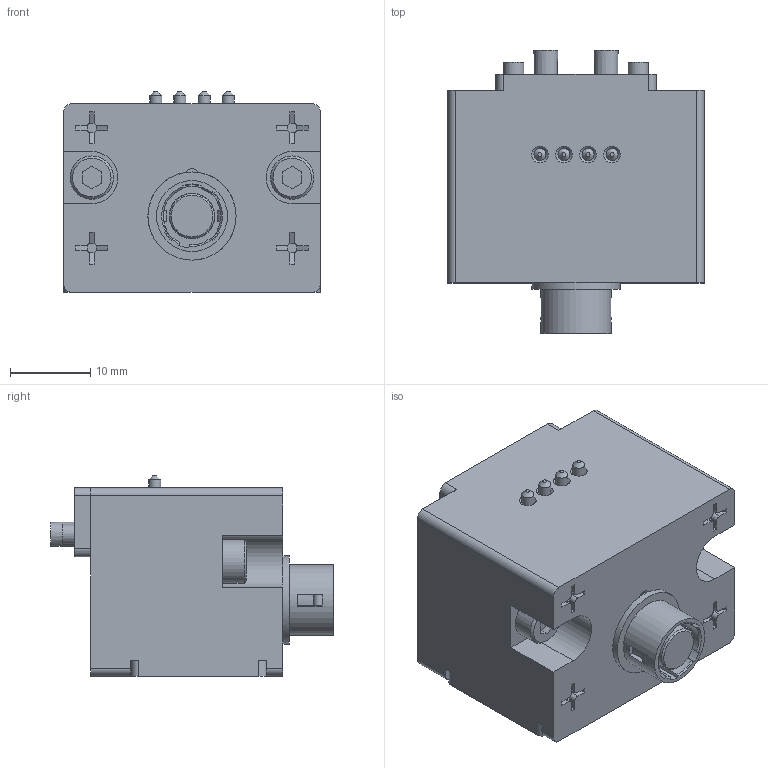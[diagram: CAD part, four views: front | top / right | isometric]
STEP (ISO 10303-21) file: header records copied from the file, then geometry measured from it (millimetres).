
FILE_DESCRIPTION(('STEP AP214'),'1');
FILE_NAME('KHB-1HS-D14C_ver1.stp','2026-04-23T23:55:15',(' '),(' '),'Spatial InterOp 3D',' ',' ');
FILE_SCHEMA(('AUTOMOTIVE_DESIGN { 1 0 10303 214 1 1 1 1 }'));
Length unit declared in the file: millimetre
Products named in the file (1): KHB-1HS-D14C_ver1
Bounding box: 32 x 35.3 x 25 mm (x, y, z)
Volume: 18006.5 mm3; surface area: 6606.5 mm2
Topology: 1 solids, 21 shells, 550 faces, 1377 edges, 890 vertices
Faces by surface type: plane 390, cylinder 124, cone 36
Full cylindrical faces by diameter (mm): 0.8 x2, 1.5 x4, 2.15 x6, 2.5 x8, 3 x8, 3.5 x4, 5.41 x2, 5.6 x1, 5.7 x1, 8 x1, 8.85 x1, 11 x1
Entity records: 21636 total; most frequent: CARTESIAN_POINT 2751, DIRECTION 2705, ORIENTED_EDGE 2566, EDGE_CURVE 1283, LINE 939, VECTOR 939, AXIS2_PLACEMENT_3D 883, VERTEX_POINT 867
